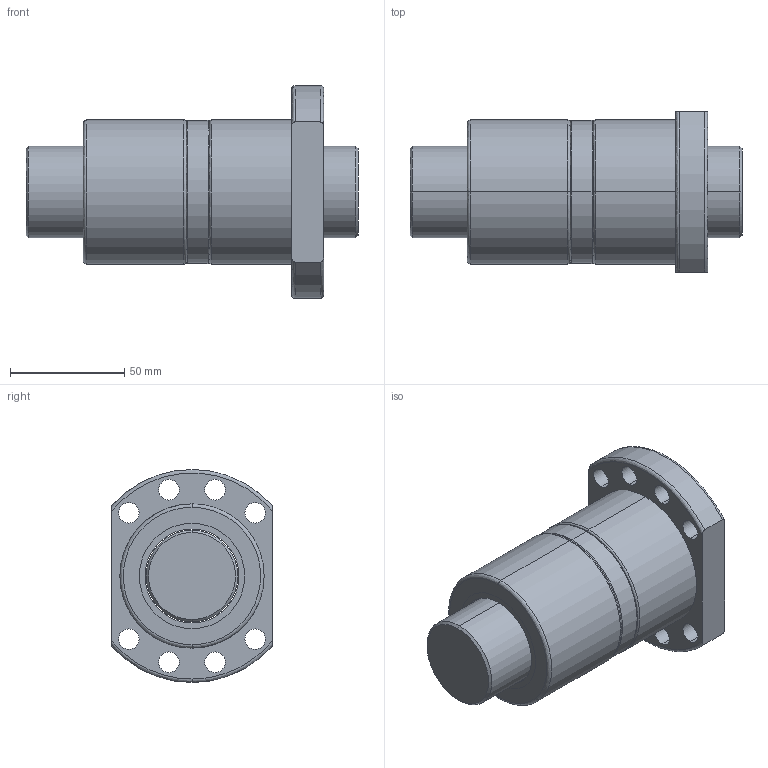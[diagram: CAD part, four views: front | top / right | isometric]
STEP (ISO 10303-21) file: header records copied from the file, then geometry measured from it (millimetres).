
FILE_DESCRIPTION (( 'STEP AP203' ), '1' );
FILE_NAME ('DFU04005.STEP', '2013-01-21T15:24:23', ( 'Halezer' ), ( '' ), 'SwSTEP 2.0', 'SolidWorks 2010', '' );
FILE_SCHEMA (( 'CONFIG_CONTROL_DESIGN' ));
Length unit declared in the file: millimetre
Products named in the file (1): DFU04005
Bounding box: 145 x 70 x 93 mm (x, y, z)
Volume: 400774.5 mm3; surface area: 78537.2 mm2
Topology: 6 solids, 6 shells, 82 faces, 185 edges, 118 vertices
Faces by surface type: cylinder 45, plane 17, bspline 16, cone 4
Entity records: 2824 total; most frequent: CARTESIAN_POINT 889, DIRECTION 401, ORIENTED_EDGE 370, EDGE_CURVE 185, AXIS2_PLACEMENT_3D 173, VERTEX_POINT 118, EDGE_LOOP 111, CIRCLE 106
